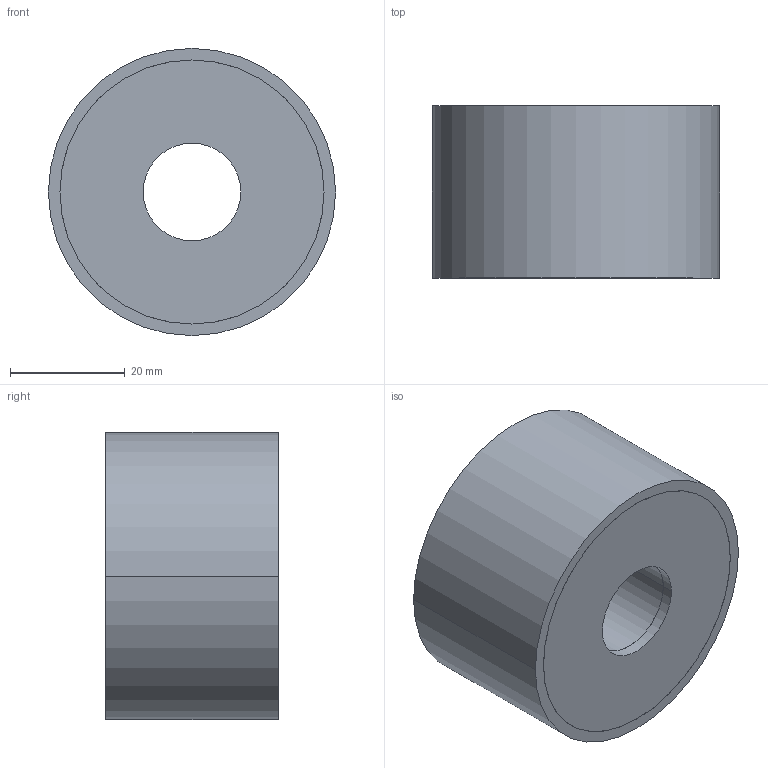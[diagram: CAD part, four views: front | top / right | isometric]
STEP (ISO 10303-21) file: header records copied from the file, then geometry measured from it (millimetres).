
FILE_DESCRIPTION (( 'STEP AP214' ), '1' );
FILE_NAME ('351-50-30-17-DD-40.step', '2025-07-23T10:14:42', ( '' ), ( '' ), 'SwSTEP 2.0', 'SolidWorks 2022', '' );
FILE_SCHEMA (( 'AUTOMOTIVE_DESIGN' ));
Length unit declared in the file: millimetre
Products named in the file (1): 351-50-30-17-DD-40
Bounding box: 50 x 30 x 50 mm (x, y, z)
Volume: 52095.4 mm3; surface area: 9795.5 mm2
Topology: 1 solids, 1 shells, 30 faces, 60 edges, 40 vertices
Faces by surface type: cylinder 20, plane 10
Entity records: 919 total; most frequent: DIRECTION 162, CARTESIAN_POINT 131, ORIENTED_EDGE 120, AXIS2_PLACEMENT_3D 71, EDGE_CURVE 60, EDGE_LOOP 40, CIRCLE 40, VERTEX_POINT 40
